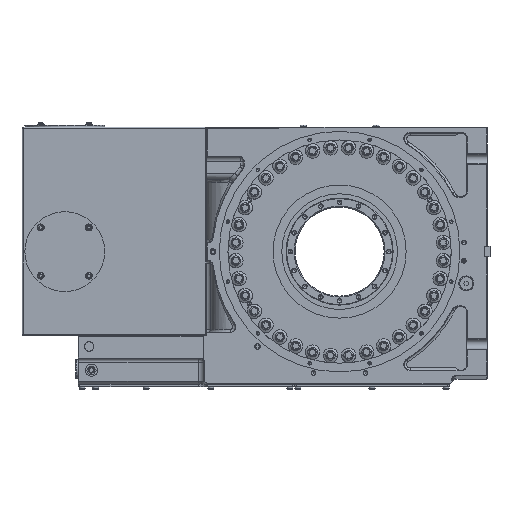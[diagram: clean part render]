
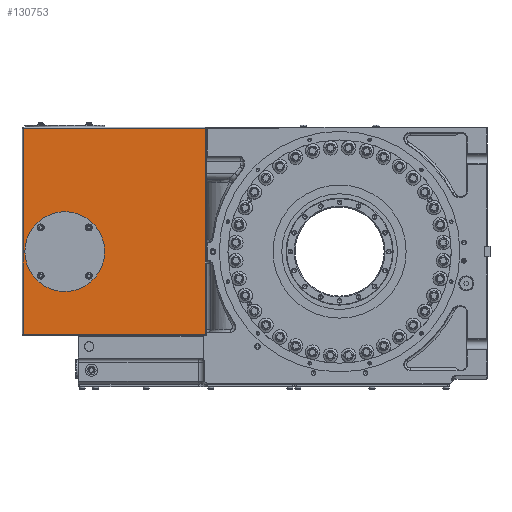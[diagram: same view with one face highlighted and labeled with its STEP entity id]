
A CAD part, left-side view. The second image highlights one B-rep face of the part: STEP entity #130753.
In plain terms, the highlighted planar face has unit normal (-1, 0, 0).
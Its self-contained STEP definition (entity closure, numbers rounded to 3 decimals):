
#3780 = VECTOR ( 'NONE', #175103, 1000. ) ;
#4671 = CARTESIAN_POINT ( 'NONE',  ( -167., 232., 213. ) ) ;
#11893 = CARTESIAN_POINT ( 'NONE',  ( -167., 547., -127. ) ) ;
#13647 = CARTESIAN_POINT ( 'NONE',  ( -167., 475., 0. ) ) ;
#14633 = EDGE_CURVE ( 'NONE', #41618, #121202, #120372, .T. ) ;
#28078 = CARTESIAN_POINT ( 'NONE',  ( -167., 230., 213. ) ) ;
#30627 = VERTEX_POINT ( 'NONE', #131916 ) ;
#33520 = EDGE_CURVE ( 'NONE', #165520, #173462, #131294, .T. ) ;
#38297 = EDGE_CURVE ( 'NONE', #173462, #165520, #173186, .T. ) ;
#39604 = CARTESIAN_POINT ( 'NONE',  ( -167., 232., -127. ) ) ;
#41618 = VERTEX_POINT ( 'NONE', #4671 ) ;
#47890 = ORIENTED_EDGE ( 'NONE', *, *, #38297, .F. ) ;
#49271 = EDGE_LOOP ( 'NONE', ( #47890, #165761 ) ) ;
#51065 = CARTESIAN_POINT ( 'NONE',  ( -167., 475., 0. ) ) ;
#52183 = AXIS2_PLACEMENT_3D ( 'NONE', #13647, #119207, #147470 ) ;
#55210 = VECTOR ( 'NONE', #67171, 1000. ) ;
#56245 = AXIS2_PLACEMENT_3D ( 'NONE', #171349, #129789, #59814 ) ;
#57111 = VECTOR ( 'NONE', #158171, 1000. ) ;
#59814 = DIRECTION ( 'NONE',  ( 0., 0., -1. ) ) ;
#62763 = ORIENTED_EDGE ( 'NONE', *, *, #14633, .T. ) ;
#65114 = LINE ( 'NONE', #11893, #57111 ) ;
#67171 = DIRECTION ( 'NONE',  ( 0., 1., 0. ) ) ;
#67966 = CARTESIAN_POINT ( 'NONE',  ( -167., 232., -143. ) ) ;
#88357 = ORIENTED_EDGE ( 'NONE', *, *, #163879, .T. ) ;
#96844 = CARTESIAN_POINT ( 'NONE',  ( -167., 475., -69. ) ) ;
#98044 = FACE_BOUND ( 'NONE', #49271, .T. ) ;
#99672 = ORIENTED_EDGE ( 'NONE', *, *, #163480, .T. ) ;
#99774 = PLANE ( 'NONE',  #56245 ) ;
#105214 = DIRECTION ( 'NONE',  ( 0., 0., 1. ) ) ;
#107918 = CARTESIAN_POINT ( 'NONE',  ( -167., 475., 69. ) ) ;
#119207 = DIRECTION ( 'NONE',  ( -1., 0., 0. ) ) ;
#119637 = AXIS2_PLACEMENT_3D ( 'NONE', #51065, #157469, #105214 ) ;
#120372 = LINE ( 'NONE', #28078, #55210 ) ;
#121202 = VERTEX_POINT ( 'NONE', #122273 ) ;
#122136 = VECTOR ( 'NONE', #134468, 1000. ) ;
#122273 = CARTESIAN_POINT ( 'NONE',  ( -167., 547., 213. ) ) ;
#129789 = DIRECTION ( 'NONE',  ( 1., 0., 0. ) ) ;
#130753 = ADVANCED_FACE ( 'NONE', ( #98044, #152034 ), #99774, .F. ) ;
#131294 = CIRCLE ( 'NONE', #52183, 69. ) ;
#131819 = LINE ( 'NONE', #67966, #3780 ) ;
#131916 = CARTESIAN_POINT ( 'NONE',  ( -167., 232., -143. ) ) ;
#134468 = DIRECTION ( 'NONE',  ( 0., 0., 1. ) ) ;
#141003 = VERTEX_POINT ( 'NONE', #147974 ) ;
#147470 = DIRECTION ( 'NONE',  ( 0., 0., 1. ) ) ;
#147974 = CARTESIAN_POINT ( 'NONE',  ( -167., 547., -143. ) ) ;
#152034 = FACE_OUTER_BOUND ( 'NONE', #156439, .T. ) ;
#156439 = EDGE_LOOP ( 'NONE', ( #88357, #161376, #99672, #62763 ) ) ;
#157469 = DIRECTION ( 'NONE',  ( -1., 0., 0. ) ) ;
#158171 = DIRECTION ( 'NONE',  ( 0., 0., -1. ) ) ;
#161010 = LINE ( 'NONE', #39604, #122136 ) ;
#161376 = ORIENTED_EDGE ( 'NONE', *, *, #171735, .T. ) ;
#163480 = EDGE_CURVE ( 'NONE', #30627, #41618, #161010, .T. ) ;
#163879 = EDGE_CURVE ( 'NONE', #121202, #141003, #65114, .T. ) ;
#165520 = VERTEX_POINT ( 'NONE', #107918 ) ;
#165761 = ORIENTED_EDGE ( 'NONE', *, *, #33520, .F. ) ;
#171349 = CARTESIAN_POINT ( 'NONE',  ( -167., 230., -127. ) ) ;
#171735 = EDGE_CURVE ( 'NONE', #141003, #30627, #131819, .T. ) ;
#173186 = CIRCLE ( 'NONE', #119637, 69. ) ;
#173462 = VERTEX_POINT ( 'NONE', #96844 ) ;
#175103 = DIRECTION ( 'NONE',  ( 0., -1., 0. ) ) ;
